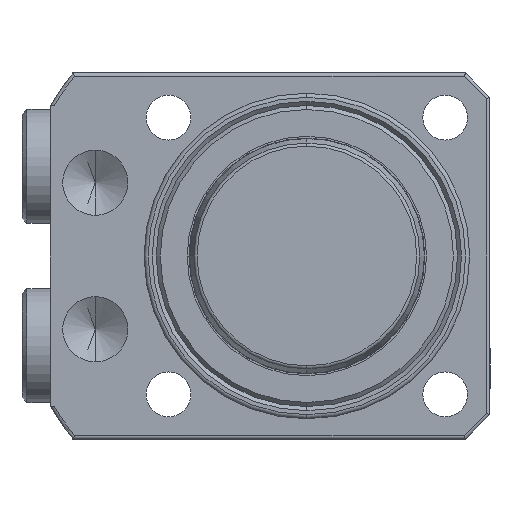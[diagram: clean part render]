
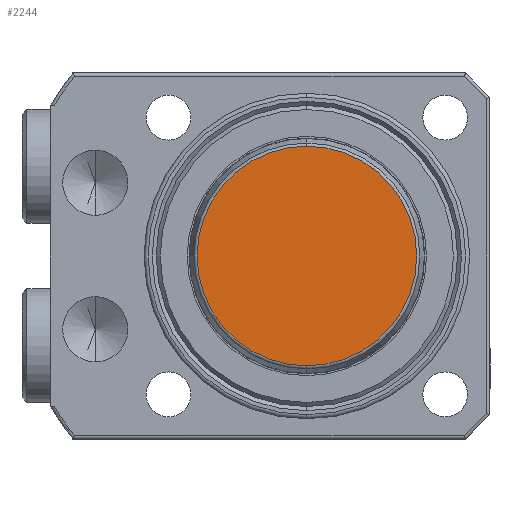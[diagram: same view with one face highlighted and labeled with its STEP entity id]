
A CAD part, front view. The second image highlights one B-rep face of the part: STEP entity #2244.
In plain terms, the highlighted planar face has unit normal (0, -1, 0).
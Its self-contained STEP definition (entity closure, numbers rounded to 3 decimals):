
#34 = ORIENTED_EDGE ( 'NONE', *, *, #1305, .T. ) ;
#222 = FACE_OUTER_BOUND ( 'NONE', #6511, .T. ) ;
#370 = DIRECTION ( 'NONE',  ( 0., 0., 1. ) ) ;
#616 = AXIS2_PLACEMENT_3D ( 'NONE', #5213, #1969, #5748 ) ;
#761 = CIRCLE ( 'NONE', #2657, 13.492 ) ;
#839 = DIRECTION ( 'NONE',  ( 0., 1., 0. ) ) ;
#1305 = EDGE_CURVE ( 'NONE', #4740, #6554, #2966, .T. ) ;
#1424 = ORIENTED_EDGE ( 'NONE', *, *, #1720, .T. ) ;
#1449 = CARTESIAN_POINT ( 'NONE',  ( 0., 0., 13.492 ) ) ;
#1663 = AXIS2_PLACEMENT_3D ( 'NONE', #4078, #839, #4617 ) ;
#1720 = EDGE_CURVE ( 'NONE', #6554, #4740, #761, .T. ) ;
#1969 = DIRECTION ( 'NONE',  ( 0., -1., 0. ) ) ;
#2244 = ADVANCED_FACE ( 'NONE', ( #222 ), #5148, .F. ) ;
#2657 = AXIS2_PLACEMENT_3D ( 'NONE', #6829, #3611, #370 ) ;
#2966 = CIRCLE ( 'NONE', #616, 13.492 ) ;
#3611 = DIRECTION ( 'NONE',  ( 0., -1., 0. ) ) ;
#4078 = CARTESIAN_POINT ( 'NONE',  ( 0., 0., 0. ) ) ;
#4617 = DIRECTION ( 'NONE',  ( 0., 0., 1. ) ) ;
#4740 = VERTEX_POINT ( 'NONE', #5677 ) ;
#5148 = PLANE ( 'NONE',  #1663 ) ;
#5213 = CARTESIAN_POINT ( 'NONE',  ( 0., 0., 0. ) ) ;
#5677 = CARTESIAN_POINT ( 'NONE',  ( 0., 0., -13.492 ) ) ;
#5748 = DIRECTION ( 'NONE',  ( 0., 0., 1. ) ) ;
#6511 = EDGE_LOOP ( 'NONE', ( #1424, #34 ) ) ;
#6554 = VERTEX_POINT ( 'NONE', #1449 ) ;
#6829 = CARTESIAN_POINT ( 'NONE',  ( 0., 0., 0. ) ) ;
